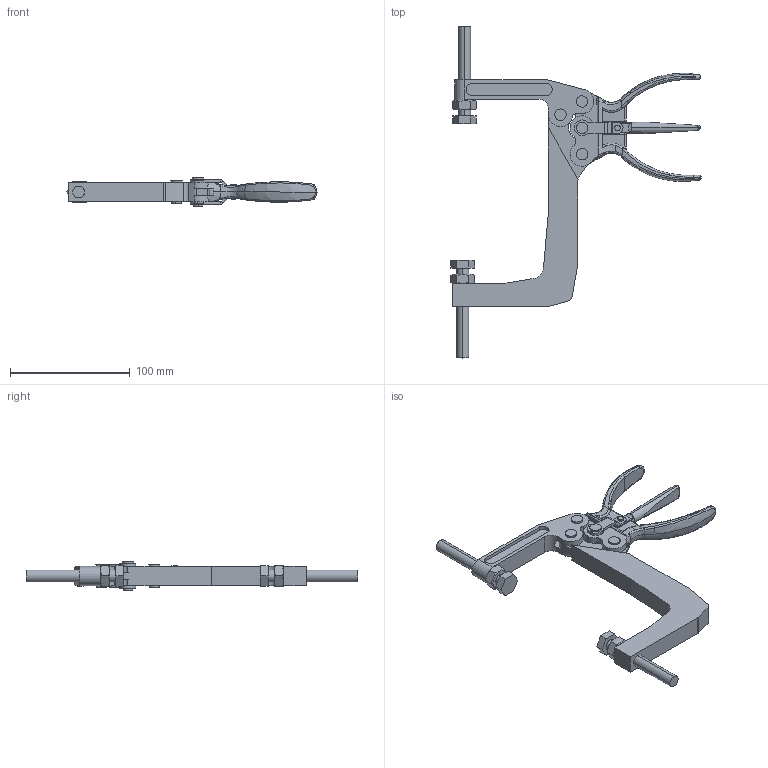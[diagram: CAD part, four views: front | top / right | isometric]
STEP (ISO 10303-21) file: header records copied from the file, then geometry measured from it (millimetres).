
FILE_DESCRIPTION (( 'STEP AP203' ), '1' );
FILE_NAME ('KFA-150-2.STEP', '2014-09-04T18:30:00', ( 'Ricardo' ), ( '' ), 'SwSTEP 2.0', 'SolidWorks 2013', '' );
FILE_SCHEMA (( 'CONFIG_CONTROL_DESIGN' ));
Length unit declared in the file: millimetre
Products named in the file (12): 06.50039; 06.50013; 06.50047; 01.30008; 12.50004; 01.30009; 11.50003; 03.30003; KFA-150-2; 03.10013; 18.30001; 18.10013
Assembly tree (16 placements, depth 2):
  KFA-150-2
    01.30008
    01.30009
    03.30003
    03.10013
    18.30001
    18.10013  x2
    06.50039  x3
    06.50013
    06.50047
    12.50004  x2
    11.50003  x2
Bounding box: 208.62 x 277 x 23.5 mm (x, y, z)
Volume: 164114.8 mm3; surface area: 62281.5 mm2
Topology: 17 solids, 17 shells, 441 faces, 1080 edges, 674 vertices
Faces by surface type: cylinder 183, plane 149, bspline 79, cone 26, sphere 4
Entity records: 16826 total; most frequent: CARTESIAN_POINT 7258, ORIENTED_EDGE 1796, DIRECTION 1579, EDGE_CURVE 898, AXIS2_PLACEMENT_3D 611, VERTEX_POINT 568, EDGE_LOOP 406, ADVANCED_FACE 362
